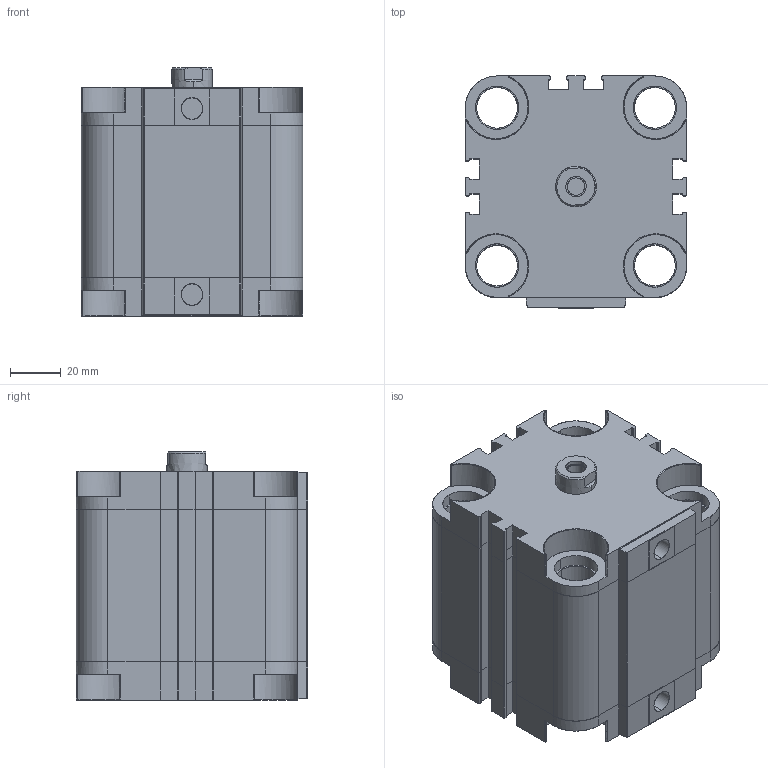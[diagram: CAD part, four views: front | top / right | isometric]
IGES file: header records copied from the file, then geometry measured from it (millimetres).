
Start section: SolidWorks IGES file using analytic representation for surfaces
Global section: file name: D:\ARICA 3D 禽Z軲LER\3D IGES\ADVU-S\ADVU-S 63\ADVU63X40-S-CYLINDER.IGS,1; native system: 5HSolidWorks 2013; preprocessor: SolidWorks 2013; author: user; date: 150523.132343; units: millimetre
Bounding box: 87 x 91.1 x 97.5 mm (x, y, z)
Surface area: 121476 mm2 (no closed solid volume)
Topology: 0 solids, 0 shells, 558 faces, 8412 edges, 8412 vertices
Faces by surface type: revolution 322, bspline 236
